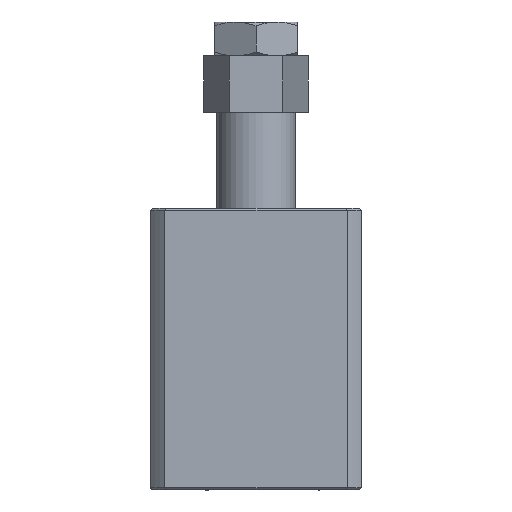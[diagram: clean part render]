
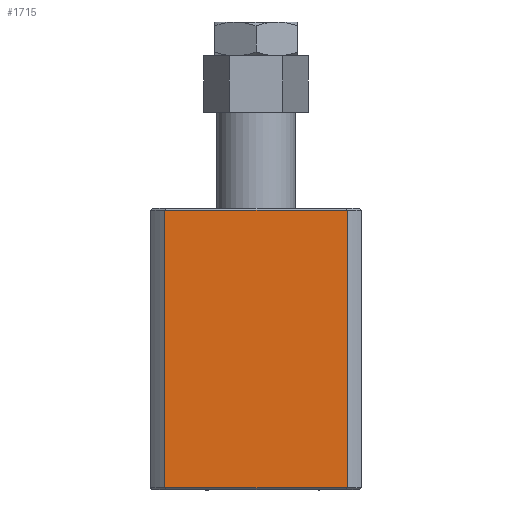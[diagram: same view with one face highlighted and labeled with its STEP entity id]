
A CAD part, left-side view. The second image highlights one B-rep face of the part: STEP entity #1715.
In plain terms, the highlighted planar face has unit normal (-1, 0, 0).
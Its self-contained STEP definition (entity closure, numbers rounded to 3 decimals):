
#151=LINE('',#2989,#241);
#159=LINE('',#3080,#249);
#160=LINE('',#3082,#250);
#161=LINE('',#3084,#251);
#241=VECTOR('',#2449,1000.);
#249=VECTOR('',#2519,1000.);
#250=VECTOR('',#2520,1000.);
#251=VECTOR('',#2521,1000.);
#401=ORIENTED_EDGE('',*,*,#815,.F.);
#402=ORIENTED_EDGE('',*,*,#816,.T.);
#403=ORIENTED_EDGE('',*,*,#817,.T.);
#404=ORIENTED_EDGE('',*,*,#783,.T.);
#783=EDGE_CURVE('',#1004,#1003,#151,.T.);
#815=EDGE_CURVE('',#1028,#1003,#159,.T.);
#816=EDGE_CURVE('',#1028,#1029,#160,.T.);
#817=EDGE_CURVE('',#1029,#1004,#161,.T.);
#1003=VERTEX_POINT('',#2988);
#1004=VERTEX_POINT('',#2990);
#1028=VERTEX_POINT('',#3081);
#1029=VERTEX_POINT('',#3083);
#1274=EDGE_LOOP('',(#401,#402,#403,#404));
#1471=FACE_BOUND('',#1274,.T.);
#1635=PLANE('',#2222);
#1715=ADVANCED_FACE('',(#1471),#1635,.T.);
#2222=AXIS2_PLACEMENT_3D('',#3079,#2517,#2518);
#2449=DIRECTION('',(0.,1.,0.));
#2517=DIRECTION('',(-1.,0.,0.));
#2518=DIRECTION('',(0.,-1.,0.));
#2519=DIRECTION('',(0.,0.,1.));
#2520=DIRECTION('',(0.,-1.,0.));
#2521=DIRECTION('',(0.,0.,1.));
#2988=CARTESIAN_POINT('',(-17.75,77.311,16.2));
#2989=CARTESIAN_POINT('',(-17.75,26.5,16.2));
#2990=CARTESIAN_POINT('',(-17.75,12.689,16.2));
#3079=CARTESIAN_POINT('',(-17.75,26.5,-83.));
#3080=CARTESIAN_POINT('',(-17.75,77.311,-83.));
#3081=CARTESIAN_POINT('',(-17.75,77.311,-82.2));
#3082=CARTESIAN_POINT('',(-17.75,12.689,-82.2));
#3083=CARTESIAN_POINT('',(-17.75,12.689,-82.2));
#3084=CARTESIAN_POINT('',(-17.75,12.689,-83.));
